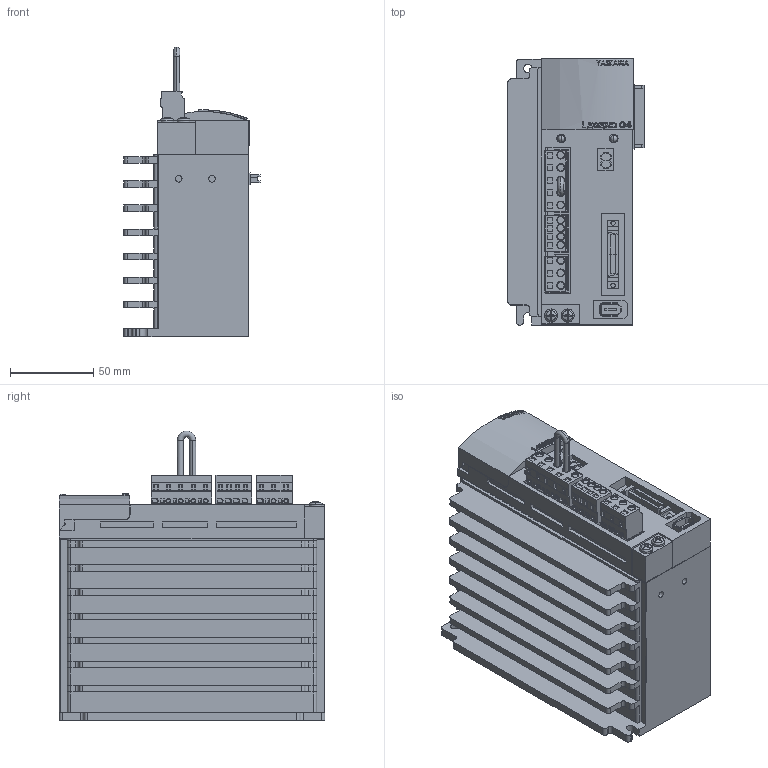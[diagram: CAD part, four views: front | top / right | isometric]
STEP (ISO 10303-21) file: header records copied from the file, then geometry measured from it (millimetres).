
FILE_DESCRIPTION (( 'STEP AP203' ), '1' );
FILE_NAME ('SGDG-04GT.STEP', '2007-08-31T18:46:47', ( 'Yaskawa' ), ( 'Yaskawa' ), 'SwSTEP 2.0', 'SolidWorks 2007', '' );
FILE_SCHEMA (( 'CONFIG_CONTROL_DESIGN' ));
Length unit declared in the file: millimetre
Products named in the file (15): 3_Pole_731_M; CN-1 Connector_F1; CN-1 Connector_F2; 4_Pole_721_F; SGDG-04GT; SGDG-04 Body; SGDG-04 Heatsink; 5_Pole_721_F; SGDG Face Cover-04; 5_Pole_731_M; 4_Pole_721_M; 3_Pole_721_F; JIS B 1111  H  (Regular Thread - Metric) A M4 x 5 - H; Jumper2; CN-1 Connector
Assembly tree (15 placements, depth 3):
  SGDG-04GT
    JIS B 1111  H  (Regular Thread - Metric) A M4 x 5 - H  x2
    SGDG-04 Heatsink
    Jumper2
    4_Pole_721_F
    CN-1 Connector
      CN-1 Connector_F1
      CN-1 Connector_F2
    SGDG-04 Body
    3_Pole_731_M
    SGDG Face Cover-04
    5_Pole_731_M
    4_Pole_721_M
    3_Pole_721_F
    5_Pole_721_F
Bounding box: 82 x 160 x 174.6 mm (x, y, z)
Volume: 160373.3 mm3; surface area: 192482.8 mm2
Topology: 13 solids, 20 shells, 1938 faces, 5122 edges, 3358 vertices
Faces by surface type: plane 1323, cylinder 303, bspline 173, cone 128, sphere 8, torus 3
Entity records: 71371 total; most frequent: CARTESIAN_POINT 23730, ORIENTED_EDGE 9964, DIRECTION 8753, EDGE_CURVE 4984, LINE 3557, VECTOR 3557, VERTEX_POINT 3279, AXIS2_PLACEMENT_3D 2598
